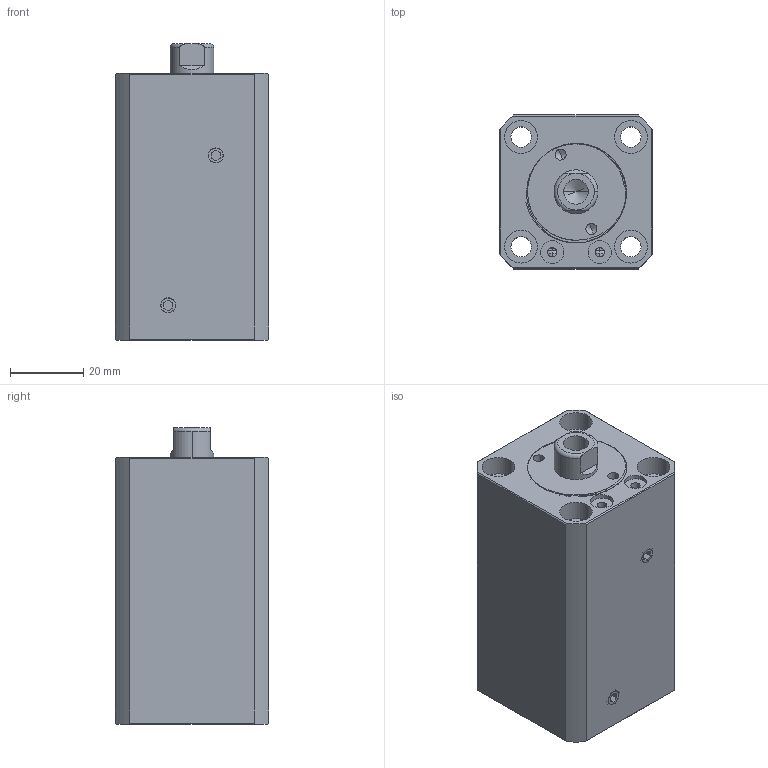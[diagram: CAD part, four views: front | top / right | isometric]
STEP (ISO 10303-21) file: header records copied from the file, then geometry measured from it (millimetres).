
FILE_DESCRIPTION (( 'STEP AP214' ), '1' );
FILE_NAME ('chtb-sdma20x30n_asm.STEP', '2018-05-18T05:42:18', ( '' ), ( '' ), 'SwSTEP 2.0', 'SolidWorks 2016', '' );
FILE_SCHEMA (( 'AUTOMOTIVE_DESIGN' ));
Length unit declared in the file: millimetre
Products named in the file (5): CHTB-SDMA20X30NHSG; CHTB-SDMA20X30NBT; chtb-sdma20x30n_asm; QG_3; socket set screw flat point_iso_ISO 4026 - M5 x 5-N
Assembly tree (5 placements, depth 2):
  chtb-sdma20x30n_asm
    CHTB-SDMA20X30NBT
    CHTB-SDMA20X30NHSG
    QG_3
    socket set screw flat point_iso_ISO 4026 - M5 x 5-N  x2
Bounding box: 42 x 42 x 81 mm (x, y, z)
Volume: 109918 mm3; surface area: 34956 mm2
Topology: 5 solids, 5 shells, 232 faces, 602 edges, 396 vertices
Faces by surface type: cylinder 111, plane 61, torus 25, bspline 21, cone 14
Entity records: 12042 total; most frequent: CARTESIAN_POINT 6742, ORIENTED_EDGE 1128, DIRECTION 1000, EDGE_CURVE 564, AXIS2_PLACEMENT_3D 415, VERTEX_POINT 376, EDGE_LOOP 256, ADVANCED_FACE 217
